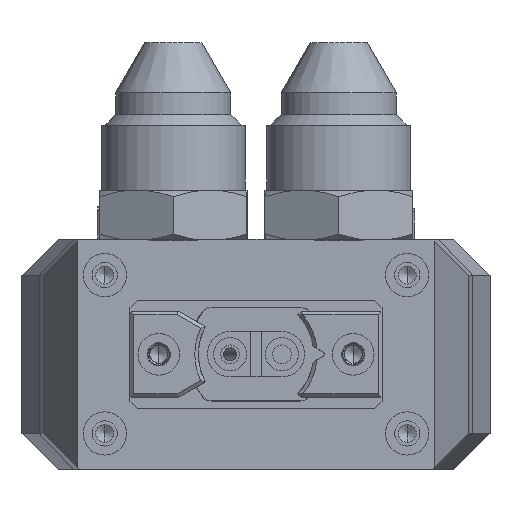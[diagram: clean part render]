
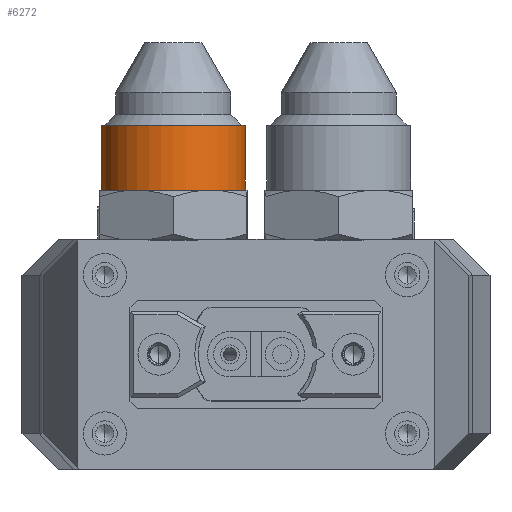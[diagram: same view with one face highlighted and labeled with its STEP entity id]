
A CAD part, front view. The second image highlights one B-rep face of the part: STEP entity #6272.
In plain terms, the highlighted cylindrical face has radius 10 mm (diameter 20 mm), a partial arc.
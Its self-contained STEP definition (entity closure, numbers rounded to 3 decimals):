
#56 = EDGE_CURVE ( 'NONE', #38751, #27359, #55799, .T. ) ;
#3231 = DIRECTION ( 'NONE',  ( 0., 0., -1. ) ) ;
#3520 = ORIENTED_EDGE ( 'NONE', *, *, #9004, .F. ) ;
#6272 = ADVANCED_FACE ( 'NONE', ( #45724 ), #54098, .T. ) ;
#6891 = CARTESIAN_POINT ( 'NONE',  ( -12.035, -112.24, 1009.903 ) ) ;
#7421 = EDGE_CURVE ( 'NONE', #9743, #41801, #56604, .T. ) ;
#8722 = ORIENTED_EDGE ( 'NONE', *, *, #56, .T. ) ;
#8921 = DIRECTION ( 'NONE',  ( 0., 0., 1. ) ) ;
#9004 = EDGE_CURVE ( 'NONE', #38751, #41801, #30561, .T. ) ;
#9743 = VERTEX_POINT ( 'NONE', #20633 ) ;
#10540 = CARTESIAN_POINT ( 'NONE',  ( -22.035, -112.24, 1041.175 ) ) ;
#10782 = VECTOR ( 'NONE', #8921, 1000. ) ;
#11176 = CARTESIAN_POINT ( 'NONE',  ( -22.035, -112.24, 1009.903 ) ) ;
#11421 = ORIENTED_EDGE ( 'NONE', *, *, #7421, .T. ) ;
#11575 = AXIS2_PLACEMENT_3D ( 'NONE', #11176, #37418, #29049 ) ;
#12660 = CARTESIAN_POINT ( 'NONE',  ( -32.035, -112.24, 1009.903 ) ) ;
#13764 = EDGE_CURVE ( 'NONE', #27359, #9743, #18214, .T. ) ;
#17012 = CARTESIAN_POINT ( 'NONE',  ( -32.035, -112.24, 1041.175 ) ) ;
#18214 = LINE ( 'NONE', #27441, #44350 ) ;
#20633 = CARTESIAN_POINT ( 'NONE',  ( -12.035, -112.24, 1018.903 ) ) ;
#24012 = CARTESIAN_POINT ( 'NONE',  ( -32.035, -112.24, 1018.903 ) ) ;
#27160 = DIRECTION ( 'NONE',  ( 0., 0., 1. ) ) ;
#27359 = VERTEX_POINT ( 'NONE', #6891 ) ;
#27441 = CARTESIAN_POINT ( 'NONE',  ( -12.035, -112.24, 1041.175 ) ) ;
#29049 = DIRECTION ( 'NONE',  ( 1., 0., 0. ) ) ;
#30561 = LINE ( 'NONE', #17012, #10782 ) ;
#32632 = AXIS2_PLACEMENT_3D ( 'NONE', #38427, #3231, #38151 ) ;
#33029 = DIRECTION ( 'NONE',  ( 0., 0., 1. ) ) ;
#35971 = ORIENTED_EDGE ( 'NONE', *, *, #13764, .T. ) ;
#37418 = DIRECTION ( 'NONE',  ( 0., 0., 1. ) ) ;
#38151 = DIRECTION ( 'NONE',  ( 1., 0., 0. ) ) ;
#38427 = CARTESIAN_POINT ( 'NONE',  ( -22.035, -112.24, 1018.903 ) ) ;
#38751 = VERTEX_POINT ( 'NONE', #12660 ) ;
#41801 = VERTEX_POINT ( 'NONE', #24012 ) ;
#41977 = DIRECTION ( 'NONE',  ( 1., 0., 0. ) ) ;
#44350 = VECTOR ( 'NONE', #27160, 1000. ) ;
#45724 = FACE_OUTER_BOUND ( 'NONE', #54009, .T. ) ;
#46385 = AXIS2_PLACEMENT_3D ( 'NONE', #10540, #33029, #41977 ) ;
#54009 = EDGE_LOOP ( 'NONE', ( #3520, #8722, #35971, #11421 ) ) ;
#54098 = CYLINDRICAL_SURFACE ( 'NONE', #46385, 10. ) ;
#55799 = CIRCLE ( 'NONE', #11575, 10. ) ;
#56604 = CIRCLE ( 'NONE', #32632, 10. ) ;
